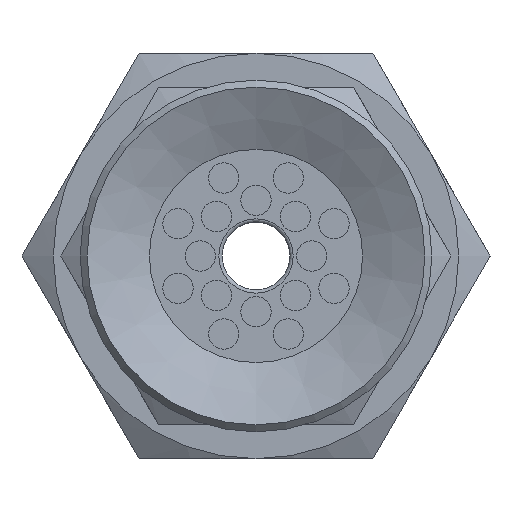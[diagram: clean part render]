
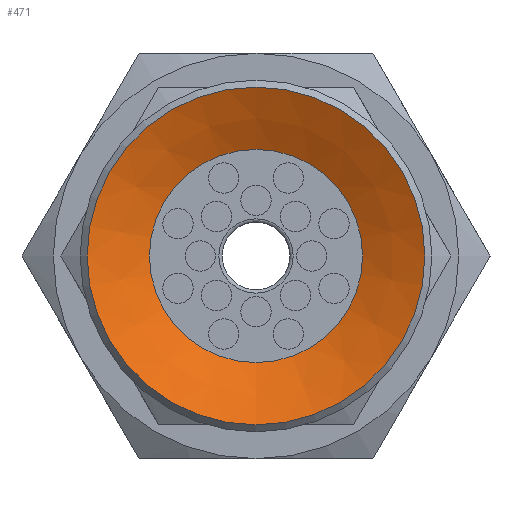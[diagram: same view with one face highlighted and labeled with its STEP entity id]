
A CAD part, front view. The second image highlights one B-rep face of the part: STEP entity #471.
In plain terms, the highlighted conical face has half-angle 64 degrees and reference radius 5 mm.
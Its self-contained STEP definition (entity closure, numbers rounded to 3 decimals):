
#471=ADVANCED_FACE('',(#719,#720),#721,.F.);
#719=FACE_BOUND('',#1046,.T.);
#720=FACE_OUTER_BOUND('',#1047,.T.);
#721=CONICAL_SURFACE('',#1048,5.0,1.117);
#1046=EDGE_LOOP('',(#1670));
#1047=EDGE_LOOP('',(#1671));
#1048=AXIS2_PLACEMENT_3D('',#1672,#1673,#1674);
#1670=ORIENTED_EDGE('',*,*,#2039,.T.);
#1671=ORIENTED_EDGE('',*,*,#2040,.F.);
#1672=CARTESIAN_POINT('',(0.0,0.,0.));
#1673=DIRECTION('',(0.0,0.,-1.0));
#1674=DIRECTION('',(0.0,1.0,0.));
#2039=EDGE_CURVE('',#2321,#2321,#2322,.T.);
#2040=EDGE_CURVE('',#2323,#2323,#2324,.T.);
#2321=VERTEX_POINT('',#2945);
#2322=CIRCLE('',#2946,3.155);
#2323=VERTEX_POINT('',#2947);
#2324=CIRCLE('',#2948,5.0);
#2945=CARTESIAN_POINT('',(0.0,-3.155,0.9));
#2946=AXIS2_PLACEMENT_3D('',#3256,#3257,#3258);
#2947=CARTESIAN_POINT('',(0.0,-5.0,0.));
#2948=AXIS2_PLACEMENT_3D('',#3259,#3260,#3261);
#3256=CARTESIAN_POINT('',(0.0,0.,0.9));
#3257=DIRECTION('',(0.0,0.,1.0));
#3258=DIRECTION('',(0.0,-1.0,0.));
#3259=CARTESIAN_POINT('',(0.0,0.,0.));
#3260=DIRECTION('',(0.0,0.,1.0));
#3261=DIRECTION('',(0.0,-1.0,0.));
